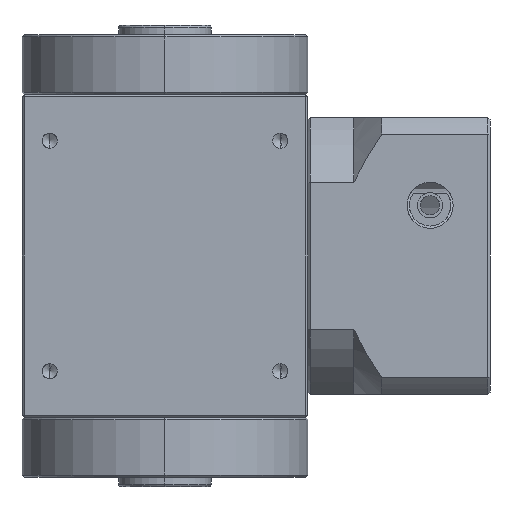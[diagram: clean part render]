
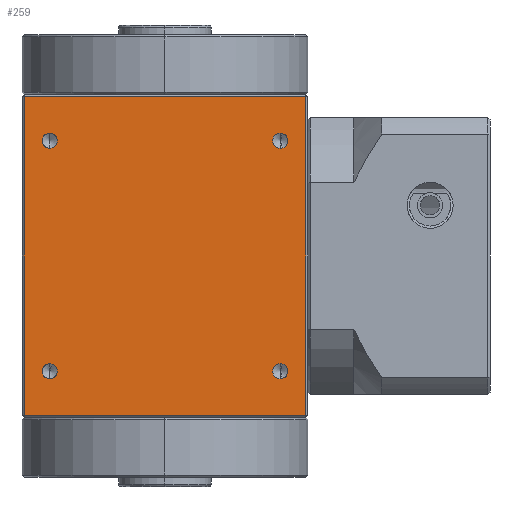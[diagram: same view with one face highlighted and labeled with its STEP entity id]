
A CAD part, left-side view. The second image highlights one B-rep face of the part: STEP entity #259.
In plain terms, the highlighted planar face has unit normal (-1, 0, 0).
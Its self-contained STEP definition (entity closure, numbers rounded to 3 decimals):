
#170 = AXIS2_PLACEMENT_3D ( 'NONE', #5522, #5523, #5524 ) ;
#183 = AXIS2_PLACEMENT_3D ( 'NONE', #5455, #5456, #5457 ) ;
#184 = AXIS2_PLACEMENT_3D ( 'NONE', #5450, #5451, #5452 ) ;
#185 = AXIS2_PLACEMENT_3D ( 'NONE', #5442, #5443, #5444 ) ;
#210 = AXIS2_PLACEMENT_3D ( 'NONE', #6475, #6476, #6477 ) ;
#215 = AXIS2_PLACEMENT_3D ( 'NONE', #6692, #6693, #6694 ) ;
#217 = AXIS2_PLACEMENT_3D ( 'NONE', #6524, #6525, #6526 ) ;
#218 = AXIS2_PLACEMENT_3D ( 'NONE', #6671, #6672, #6673 ) ;
#259 = ADVANCED_FACE ( 'NONE', ( #4756, #4764, #4760, #4758, #4762 ), #3126, .F. ) ;
#444 = CARTESIAN_POINT ( 'NONE',  ( -31., -25., -26.65 ) ) ;
#445 = CARTESIAN_POINT ( 'NONE',  ( -31., -25., 26.65 ) ) ;
#450 = CARTESIAN_POINT ( 'NONE',  ( -31., -25., 23.35 ) ) ;
#453 = CARTESIAN_POINT ( 'NONE',  ( -31., -25., -23.35 ) ) ;
#464 = CARTESIAN_POINT ( 'NONE',  ( -31., 25., -23.35 ) ) ;
#471 = CARTESIAN_POINT ( 'NONE',  ( -31., 25., 23.35 ) ) ;
#474 = CARTESIAN_POINT ( 'NONE',  ( -31., 25., 26.65 ) ) ;
#493 = CARTESIAN_POINT ( 'NONE',  ( -31., 25., -26.65 ) ) ;
#548 = CARTESIAN_POINT ( 'NONE',  ( -31., -30.5, -34.5 ) ) ;
#568 = CARTESIAN_POINT ( 'NONE',  ( -31., 30.5, -34.5 ) ) ;
#570 = CARTESIAN_POINT ( 'NONE',  ( -31., -30.5, 34.5 ) ) ;
#571 = CARTESIAN_POINT ( 'NONE',  ( -31., 30.5, 34.5 ) ) ;
#681 = DIRECTION ( 'NONE',  ( 0., 1., 0. ) ) ;
#682 = CARTESIAN_POINT ( 'NONE',  ( -31., 31., 34.5 ) ) ;
#684 = CARTESIAN_POINT ( 'NONE',  ( -31., 30.5, 35. ) ) ;
#685 = DIRECTION ( 'NONE',  ( 0., 0., -1. ) ) ;
#1065 = EDGE_LOOP ( 'NONE', ( #5178, #5179 ) ) ;
#1066 = EDGE_LOOP ( 'NONE', ( #5145, #5182 ) ) ;
#1068 = EDGE_LOOP ( 'NONE', ( #5176, #5177 ) ) ;
#1085 = EDGE_LOOP ( 'NONE', ( #5151, #5111, #5112, #5113 ) ) ;
#1092 = EDGE_LOOP ( 'NONE', ( #5149, #5153 ) ) ;
#2495 = CIRCLE ( 'NONE', #185, 1.65 ) ;
#2497 = CIRCLE ( 'NONE', #184, 1.65 ) ;
#2499 = LINE ( 'NONE', #5454, #2508 ) ;
#2502 = CIRCLE ( 'NONE', #183, 1.65 ) ;
#2505 = LINE ( 'NONE', #5453, #2510 ) ;
#2508 = VECTOR ( 'NONE', #5458, 1000. ) ;
#2510 = VECTOR ( 'NONE', #5460, 1000. ) ;
#2516 = CIRCLE ( 'NONE', #170, 1.65 ) ;
#2609 = VECTOR ( 'NONE', #685, 1000. ) ;
#2614 = VECTOR ( 'NONE', #681, 1000. ) ;
#2622 = LINE ( 'NONE', #684, #2609 ) ;
#2623 = LINE ( 'NONE', #682, #2614 ) ;
#3122 = DIRECTION ( 'NONE',  ( 0., 0., -1. ) ) ;
#3124 = CARTESIAN_POINT ( 'NONE',  ( -31., -31., 35. ) ) ;
#3126 = PLANE ( 'NONE',  #5248 ) ;
#3128 = DIRECTION ( 'NONE',  ( 1., 0., 0. ) ) ;
#3624 = CIRCLE ( 'NONE', #210, 1.65 ) ;
#3647 = CIRCLE ( 'NONE', #217, 1.65 ) ;
#3691 = CIRCLE ( 'NONE', #218, 1.65 ) ;
#3697 = CIRCLE ( 'NONE', #215, 1.65 ) ;
#4505 = EDGE_CURVE ( 'NONE', #6990, #6961, #3624, .T. ) ;
#4520 = EDGE_CURVE ( 'NONE', #6968, #6971, #3647, .T. ) ;
#4756 = FACE_BOUND ( 'NONE', #1092, .T. ) ;
#4758 = FACE_BOUND ( 'NONE', #1066, .T. ) ;
#4760 = FACE_BOUND ( 'NONE', #1065, .T. ) ;
#4762 = FACE_OUTER_BOUND ( 'NONE', #1085, .T. ) ;
#4764 = FACE_BOUND ( 'NONE', #1068, .T. ) ;
#5111 = ORIENTED_EDGE ( 'NONE', *, *, #6105, .T. ) ;
#5112 = ORIENTED_EDGE ( 'NONE', *, *, #8076, .T. ) ;
#5113 = ORIENTED_EDGE ( 'NONE', *, *, #8077, .T. ) ;
#5145 = ORIENTED_EDGE ( 'NONE', *, *, #6100, .F. ) ;
#5149 = ORIENTED_EDGE ( 'NONE', *, *, #6113, .F. ) ;
#5151 = ORIENTED_EDGE ( 'NONE', *, *, #6104, .T. ) ;
#5153 = ORIENTED_EDGE ( 'NONE', *, *, #4505, .F. ) ;
#5176 = ORIENTED_EDGE ( 'NONE', *, *, #6097, .F. ) ;
#5177 = ORIENTED_EDGE ( 'NONE', *, *, #4520, .F. ) ;
#5178 = ORIENTED_EDGE ( 'NONE', *, *, #6102, .F. ) ;
#5179 = ORIENTED_EDGE ( 'NONE', *, *, #6043, .F. ) ;
#5182 = ORIENTED_EDGE ( 'NONE', *, *, #6049, .F. ) ;
#5248 = AXIS2_PLACEMENT_3D ( 'NONE', #3124, #3128, #3122 ) ;
#5442 = CARTESIAN_POINT ( 'NONE',  ( -31., 25., 25. ) ) ;
#5443 = DIRECTION ( 'NONE',  ( -1., 0., 0. ) ) ;
#5444 = DIRECTION ( 'NONE',  ( 0., 0., 1. ) ) ;
#5450 = CARTESIAN_POINT ( 'NONE',  ( -31., -25., -25. ) ) ;
#5451 = DIRECTION ( 'NONE',  ( -1., 0., 0. ) ) ;
#5452 = DIRECTION ( 'NONE',  ( 0., 0., 1. ) ) ;
#5453 = CARTESIAN_POINT ( 'NONE',  ( -31., -30.5, 35. ) ) ;
#5454 = CARTESIAN_POINT ( 'NONE',  ( -31., -31., -34.5 ) ) ;
#5455 = CARTESIAN_POINT ( 'NONE',  ( -31., -25., 25. ) ) ;
#5456 = DIRECTION ( 'NONE',  ( -1., 0., 0. ) ) ;
#5457 = DIRECTION ( 'NONE',  ( 0., 0., 1. ) ) ;
#5458 = DIRECTION ( 'NONE',  ( 0., -1., 0. ) ) ;
#5460 = DIRECTION ( 'NONE',  ( 0., 0., 1. ) ) ;
#5522 = CARTESIAN_POINT ( 'NONE',  ( -31., 25., -25. ) ) ;
#5523 = DIRECTION ( 'NONE',  ( -1., 0., 0. ) ) ;
#5524 = DIRECTION ( 'NONE',  ( 0., 0., 1. ) ) ;
#6043 = EDGE_CURVE ( 'NONE', #6947, #6942, #3691, .T. ) ;
#6049 = EDGE_CURVE ( 'NONE', #6941, #6950, #3697, .T. ) ;
#6097 = EDGE_CURVE ( 'NONE', #6971, #6968, #2495, .T. ) ;
#6100 = EDGE_CURVE ( 'NONE', #6950, #6941, #2497, .T. ) ;
#6102 = EDGE_CURVE ( 'NONE', #6942, #6947, #2502, .T. ) ;
#6104 = EDGE_CURVE ( 'NONE', #7159, #7139, #2499, .T. ) ;
#6105 = EDGE_CURVE ( 'NONE', #7139, #7161, #2505, .T. ) ;
#6113 = EDGE_CURVE ( 'NONE', #6961, #6990, #2516, .T. ) ;
#6475 = CARTESIAN_POINT ( 'NONE',  ( -31., 25., -25. ) ) ;
#6476 = DIRECTION ( 'NONE',  ( -1., 0., 0. ) ) ;
#6477 = DIRECTION ( 'NONE',  ( 0., 0., 1. ) ) ;
#6524 = CARTESIAN_POINT ( 'NONE',  ( -31., 25., 25. ) ) ;
#6525 = DIRECTION ( 'NONE',  ( -1., 0., 0. ) ) ;
#6526 = DIRECTION ( 'NONE',  ( 0., 0., 1. ) ) ;
#6671 = CARTESIAN_POINT ( 'NONE',  ( -31., -25., 25. ) ) ;
#6672 = DIRECTION ( 'NONE',  ( -1., 0., 0. ) ) ;
#6673 = DIRECTION ( 'NONE',  ( 0., 0., 1. ) ) ;
#6692 = CARTESIAN_POINT ( 'NONE',  ( -31., -25., -25. ) ) ;
#6693 = DIRECTION ( 'NONE',  ( -1., 0., 0. ) ) ;
#6694 = DIRECTION ( 'NONE',  ( 0., 0., 1. ) ) ;
#6941 = VERTEX_POINT ( 'NONE', #444 ) ;
#6942 = VERTEX_POINT ( 'NONE', #445 ) ;
#6947 = VERTEX_POINT ( 'NONE', #450 ) ;
#6950 = VERTEX_POINT ( 'NONE', #453 ) ;
#6961 = VERTEX_POINT ( 'NONE', #464 ) ;
#6968 = VERTEX_POINT ( 'NONE', #471 ) ;
#6971 = VERTEX_POINT ( 'NONE', #474 ) ;
#6990 = VERTEX_POINT ( 'NONE', #493 ) ;
#7139 = VERTEX_POINT ( 'NONE', #548 ) ;
#7159 = VERTEX_POINT ( 'NONE', #568 ) ;
#7161 = VERTEX_POINT ( 'NONE', #570 ) ;
#7162 = VERTEX_POINT ( 'NONE', #571 ) ;
#8076 = EDGE_CURVE ( 'NONE', #7161, #7162, #2623, .T. ) ;
#8077 = EDGE_CURVE ( 'NONE', #7162, #7159, #2622, .T. ) ;
